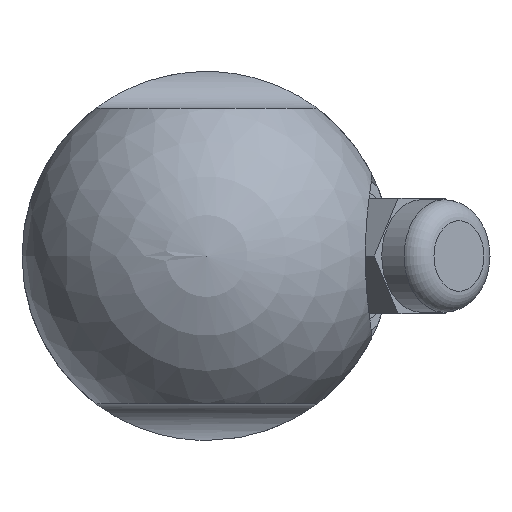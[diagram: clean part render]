
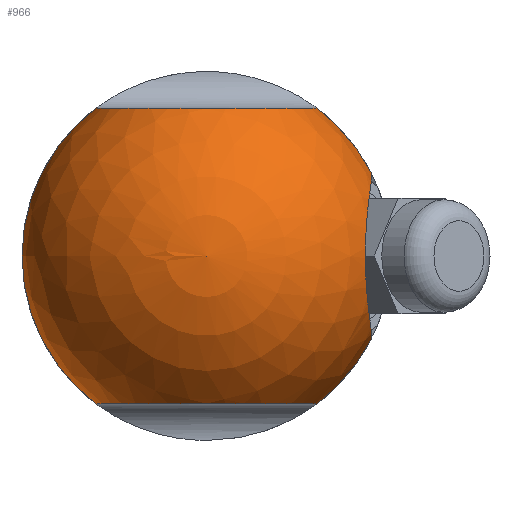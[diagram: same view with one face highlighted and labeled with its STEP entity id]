
A CAD part, left-side view. The second image highlights one B-rep face of the part: STEP entity #966.
In plain terms, the highlighted spherical face has radius 17.5 mm.
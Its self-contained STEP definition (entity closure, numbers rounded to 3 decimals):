
#20=SPHERICAL_SURFACE('',#1361,17.5);
#25=B_SPLINE_CURVE_WITH_KNOTS('',3,(#1964,#1965,#1966,#1967,#1968,#1969,
#1970,#1971,#1972,#1973,#1974),.UNSPECIFIED.,.F.,.F.,(4,1,1,1,1,1,1,1,4),
(0.,0.003,0.006,0.01,
0.013,0.016,0.019,0.023,
0.026),.UNSPECIFIED.);
#345=ORIENTED_EDGE('',*,*,#499,.F.);
#346=ORIENTED_EDGE('',*,*,#500,.F.);
#347=ORIENTED_EDGE('',*,*,#492,.T.);
#348=ORIENTED_EDGE('',*,*,#501,.F.);
#349=ORIENTED_EDGE('',*,*,#498,.T.);
#350=ORIENTED_EDGE('',*,*,#502,.F.);
#492=EDGE_CURVE('',#588,#589,#650,.F.);
#498=EDGE_CURVE('',#593,#594,#652,.F.);
#499=EDGE_CURVE('',#595,#596,#25,.T.);
#500=EDGE_CURVE('',#588,#595,#653,.T.);
#501=EDGE_CURVE('',#593,#589,#654,.T.);
#502=EDGE_CURVE('',#596,#594,#655,.T.);
#588=VERTEX_POINT('',#1931);
#589=VERTEX_POINT('',#1933);
#593=VERTEX_POINT('',#1959);
#594=VERTEX_POINT('',#1961);
#595=VERTEX_POINT('',#1975);
#596=VERTEX_POINT('',#1976);
#650=CIRCLE('',#1355,10.5);
#652=CIRCLE('',#1360,10.5);
#653=CIRCLE('',#1362,17.5);
#654=CIRCLE('',#1363,17.5);
#655=CIRCLE('',#1364,17.5);
#753=EDGE_LOOP('',(#345,#346,#347,#348,#349,#350));
#867=FACE_BOUND('',#753,.T.);
#966=ADVANCED_FACE('',(#867),#20,.T.);
#1355=AXIS2_PLACEMENT_3D('',#1934,#1613,#1614);
#1360=AXIS2_PLACEMENT_3D('',#1962,#1626,#1627);
#1361=AXIS2_PLACEMENT_3D('',#1963,#1628,#1629);
#1362=AXIS2_PLACEMENT_3D('',#1977,#1630,#1631);
#1363=AXIS2_PLACEMENT_3D('',#1978,#1632,#1633);
#1364=AXIS2_PLACEMENT_3D('',#1979,#1634,#1635);
#1613=DIRECTION('',(0.,0.,1.));
#1614=DIRECTION('',(1.,0.,0.));
#1626=DIRECTION('',(0.,0.,-1.));
#1627=DIRECTION('',(-1.,0.,0.));
#1628=DIRECTION('',(1.,0.,0.));
#1629=DIRECTION('',(0.,1.,0.));
#1630=DIRECTION('',(1.,0.,0.));
#1631=DIRECTION('',(0.,0.,-1.));
#1632=DIRECTION('',(1.,0.,0.));
#1633=DIRECTION('',(0.,0.,-1.));
#1634=DIRECTION('',(1.,0.,0.));
#1635=DIRECTION('',(0.,0.,-1.));
#1931=CARTESIAN_POINT('',(0.,-10.5,14.));
#1933=CARTESIAN_POINT('',(0.,10.5,14.));
#1934=CARTESIAN_POINT('',(0.,0.,14.));
#1959=CARTESIAN_POINT('',(0.,10.5,-14.));
#1961=CARTESIAN_POINT('',(0.,-10.5,-14.));
#1962=CARTESIAN_POINT('',(0.,0.,-14.));
#1963=CARTESIAN_POINT('',(0.,0.,0.));
#1964=CARTESIAN_POINT('',(0.,-15.621,7.89));
#1965=CARTESIAN_POINT('',(-1.086,-15.682,7.768));
#1966=CARTESIAN_POINT('',(-3.207,-15.685,7.315));
#1967=CARTESIAN_POINT('',(-6.133,-15.457,5.778));
#1968=CARTESIAN_POINT('',(-8.326,-15.165,3.265));
#1969=CARTESIAN_POINT('',(-9.174,-15.027,0.009));
#1970=CARTESIAN_POINT('',(-8.332,-15.164,-3.256));
#1971=CARTESIAN_POINT('',(-6.136,-15.457,-5.778));
#1972=CARTESIAN_POINT('',(-3.199,-15.685,-7.318));
#1973=CARTESIAN_POINT('',(-1.086,-15.682,-7.768));
#1974=CARTESIAN_POINT('',(0.,-15.621,-7.89));
#1975=CARTESIAN_POINT('',(0.,-15.621,7.89));
#1976=CARTESIAN_POINT('',(0.,-15.621,-7.89));
#1977=CARTESIAN_POINT('',(0.,0.,0.));
#1978=CARTESIAN_POINT('',(0.,0.,0.));
#1979=CARTESIAN_POINT('',(0.,0.,0.));
